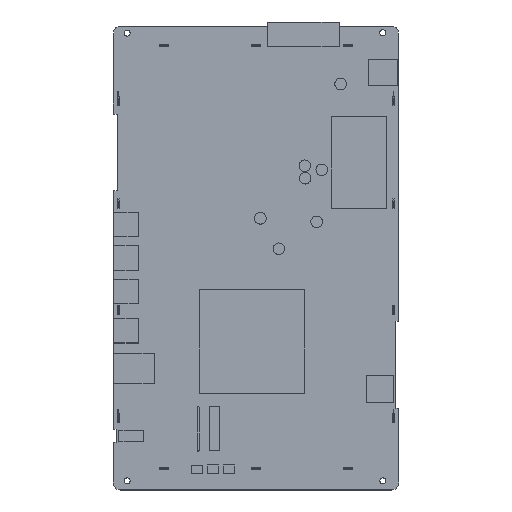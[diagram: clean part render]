
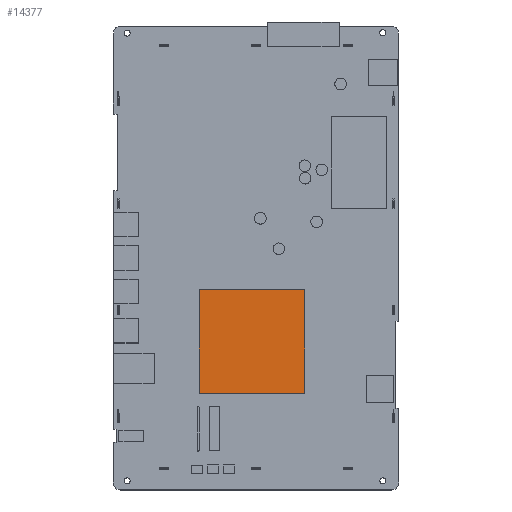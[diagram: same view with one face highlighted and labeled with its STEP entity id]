
A CAD part, top view. The second image highlights one B-rep face of the part: STEP entity #14377.
In plain terms, the highlighted planar face has unit normal (0, 0, 1).
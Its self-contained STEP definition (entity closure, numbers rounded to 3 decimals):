
#4401=DIRECTION('',(0.,-1.,0.));
#4402=VECTOR('',#4401,56.625);
#4403=CARTESIAN_POINT('',(-30.427,-17.766,9.4));
#4404=LINE('',#4403,#4402);
#4405=DIRECTION('',(-1.,0.,0.));
#4406=VECTOR('',#4405,57.525);
#4407=CARTESIAN_POINT('',(27.098,-17.766,9.4));
#4408=LINE('',#4407,#4406);
#4409=DIRECTION('',(0.,1.,0.));
#4410=VECTOR('',#4409,56.625);
#4411=CARTESIAN_POINT('',(27.098,-74.391,9.4));
#4412=LINE('',#4411,#4410);
#4413=DIRECTION('',(1.,0.,0.));
#4414=VECTOR('',#4413,57.525);
#4415=CARTESIAN_POINT('',(-30.427,-74.391,9.4));
#4416=LINE('',#4415,#4414);
#5163=CARTESIAN_POINT('',(-30.427,-17.766,9.4));
#5164=CARTESIAN_POINT('',(-30.427,-74.391,9.4));
#5165=VERTEX_POINT('',#5163);
#5166=VERTEX_POINT('',#5164);
#5167=CARTESIAN_POINT('',(27.098,-74.391,9.4));
#5168=VERTEX_POINT('',#5167);
#5169=CARTESIAN_POINT('',(27.098,-17.766,9.4));
#5170=VERTEX_POINT('',#5169);
#14366=CARTESIAN_POINT('',(-77.066,-101.128,9.4));
#14367=DIRECTION('',(0.,0.,1.));
#14368=DIRECTION('',(0.,-1.,0.));
#14369=AXIS2_PLACEMENT_3D('',#14366,#14367,#14368);
#14370=PLANE('',#14369);
#14371=ORIENTED_EDGE('',*,*,#14290,.F.);
#14372=ORIENTED_EDGE('',*,*,#14312,.F.);
#14373=ORIENTED_EDGE('',*,*,#14333,.F.);
#14374=ORIENTED_EDGE('',*,*,#14353,.F.);
#14375=EDGE_LOOP('',(#14371,#14372,#14373,#14374));
#14376=FACE_OUTER_BOUND('',#14375,.F.);
#14290=EDGE_CURVE('',#5165,#5166,#4404,.T.);
#14312=EDGE_CURVE('',#5170,#5165,#4408,.T.);
#14333=EDGE_CURVE('',#5168,#5170,#4412,.T.);
#14353=EDGE_CURVE('',#5166,#5168,#4416,.T.);
#14377=ADVANCED_FACE('',(#14376),#14370,.T.);
